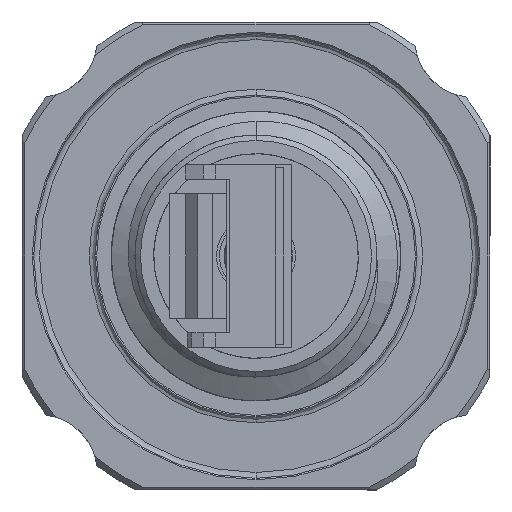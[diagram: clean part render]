
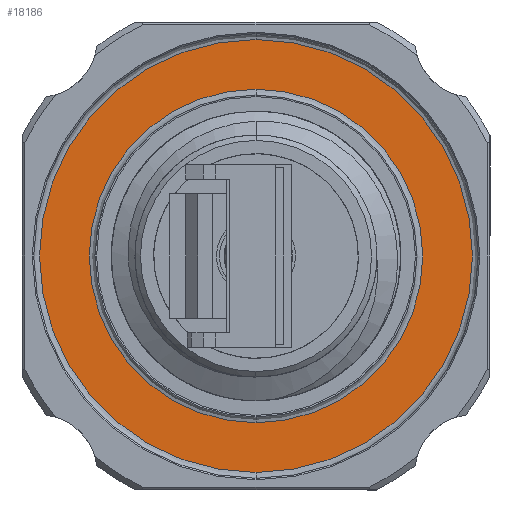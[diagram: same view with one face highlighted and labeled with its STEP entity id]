
A CAD part, front view. The second image highlights one B-rep face of the part: STEP entity #18186.
In plain terms, the highlighted planar face has unit normal (0, -1, 0).
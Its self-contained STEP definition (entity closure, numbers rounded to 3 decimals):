
#443 = DIRECTION ( 'NONE',  ( 0., 1., 0. ) ) ;
#498 = DIRECTION ( 'NONE',  ( 0., 1., 0. ) ) ;
#1565 = EDGE_CURVE ( 'NONE', #6025, #26815, #10445, .T. ) ;
#1645 = ORIENTED_EDGE ( 'NONE', *, *, #32558, .F. ) ;
#2434 = AXIS2_PLACEMENT_3D ( 'NONE', #3117, #498, #24814 ) ;
#3117 = CARTESIAN_POINT ( 'NONE',  ( 0., -6.75, 0. ) ) ;
#4861 = CIRCLE ( 'NONE', #28085, 5.7 ) ;
#5145 = ORIENTED_EDGE ( 'NONE', *, *, #29491, .T. ) ;
#6025 = VERTEX_POINT ( 'NONE', #11148 ) ;
#6429 = CARTESIAN_POINT ( 'NONE',  ( 0., -6.75, -5.7 ) ) ;
#6458 = CARTESIAN_POINT ( 'NONE',  ( 0., -6.75, -7.4 ) ) ;
#6688 = ORIENTED_EDGE ( 'NONE', *, *, #1565, .F. ) ;
#7758 = EDGE_LOOP ( 'NONE', ( #8541, #5145 ) ) ;
#8324 = CARTESIAN_POINT ( 'NONE',  ( 0., -6.75, 0. ) ) ;
#8541 = ORIENTED_EDGE ( 'NONE', *, *, #10591, .T. ) ;
#9191 = DIRECTION ( 'NONE',  ( 0., 0., -1. ) ) ;
#9698 = DIRECTION ( 'NONE',  ( 0., 1., 0. ) ) ;
#10445 = CIRCLE ( 'NONE', #18275, 7.4 ) ;
#10591 = EDGE_CURVE ( 'NONE', #21351, #32976, #11195, .T. ) ;
#11148 = CARTESIAN_POINT ( 'NONE',  ( 0., -6.75, 7.4 ) ) ;
#11195 = CIRCLE ( 'NONE', #24017, 5.7 ) ;
#11974 = CARTESIAN_POINT ( 'NONE',  ( 0., -6.75, 0. ) ) ;
#12385 = FACE_BOUND ( 'NONE', #7758, .T. ) ;
#13424 = DIRECTION ( 'NONE',  ( 0., 0., 1. ) ) ;
#14143 = CARTESIAN_POINT ( 'NONE',  ( 0., -6.75, 0. ) ) ;
#16048 = CARTESIAN_POINT ( 'NONE',  ( 0., -6.75, 5.7 ) ) ;
#16544 = DIRECTION ( 'NONE',  ( 0., 0., -1. ) ) ;
#17819 = PLANE ( 'NONE',  #23675 ) ;
#18186 = ADVANCED_FACE ( 'NONE', ( #12385, #23063 ), #17819, .T. ) ;
#18275 = AXIS2_PLACEMENT_3D ( 'NONE', #14143, #30229, #27768 ) ;
#19387 = DIRECTION ( 'NONE',  ( 0., -1., 0. ) ) ;
#21351 = VERTEX_POINT ( 'NONE', #6429 ) ;
#23063 = FACE_OUTER_BOUND ( 'NONE', #26424, .T. ) ;
#23675 = AXIS2_PLACEMENT_3D ( 'NONE', #16048, #19387, #13424 ) ;
#24017 = AXIS2_PLACEMENT_3D ( 'NONE', #8324, #443, #16544 ) ;
#24814 = DIRECTION ( 'NONE',  ( 0., 0., -1. ) ) ;
#26424 = EDGE_LOOP ( 'NONE', ( #1645, #6688 ) ) ;
#26815 = VERTEX_POINT ( 'NONE', #6458 ) ;
#27768 = DIRECTION ( 'NONE',  ( 0., 0., -1. ) ) ;
#28085 = AXIS2_PLACEMENT_3D ( 'NONE', #11974, #9698, #9191 ) ;
#29491 = EDGE_CURVE ( 'NONE', #32976, #21351, #4861, .T. ) ;
#29748 = CIRCLE ( 'NONE', #2434, 7.4 ) ;
#30229 = DIRECTION ( 'NONE',  ( 0., 1., 0. ) ) ;
#32558 = EDGE_CURVE ( 'NONE', #26815, #6025, #29748, .T. ) ;
#32976 = VERTEX_POINT ( 'NONE', #34209 ) ;
#34209 = CARTESIAN_POINT ( 'NONE',  ( 0., -6.75, 5.7 ) ) ;
